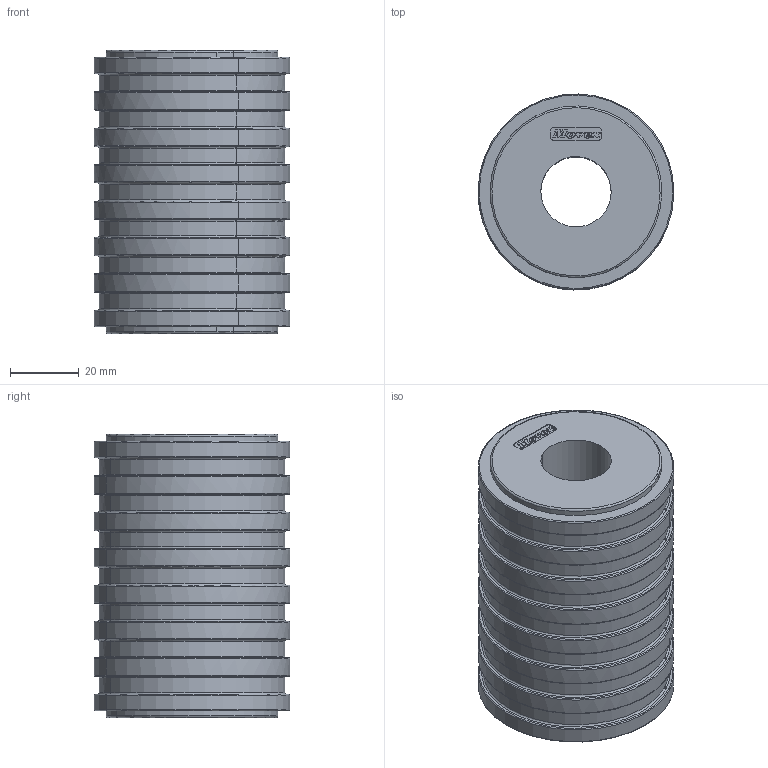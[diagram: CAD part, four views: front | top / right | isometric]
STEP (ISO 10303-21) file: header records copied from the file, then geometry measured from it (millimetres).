
FILE_DESCRIPTION(('CATIA V5 STEP Exchange'),'2;1');
FILE_NAME('C:\Users\dentellad\Desktop\P20303_01.stp','2016-10-24T12:25:23+00:00',('none'),('none'),'Version 5-6 Release 2012','CATIA V5 STEP AP203','none');
FILE_SCHEMA(('CONFIG_CONTROL_DESIGN'));
Length unit declared in the file: millimetre
Products named in the file (1): Product1
Assembly tree (2 placements, depth 2):
  Product1
    #58
    #3761
Bounding box: 56.98 x 56.99 x 82.5 mm (x, y, z)
Volume: 166843.1 mm3; surface area: 54361.9 mm2
Topology: 2 solids, 2 shells, 608 faces, 1681 edges, 1100 vertices
Faces by surface type: plane 465, torus 97, cylinder 45, cone 1
Entity records: 18915 total; most frequent: CARTESIAN_POINT 3612, ORIENTED_EDGE 3362, DIRECTION 2762, EDGE_CURVE 1681, VECTOR 1360, LINE 1360, VERTEX_POINT 1100, AXIS2_PLACEMENT_3D 848
